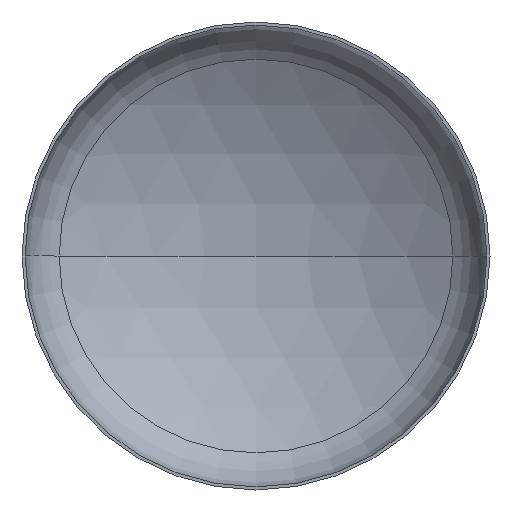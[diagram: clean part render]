
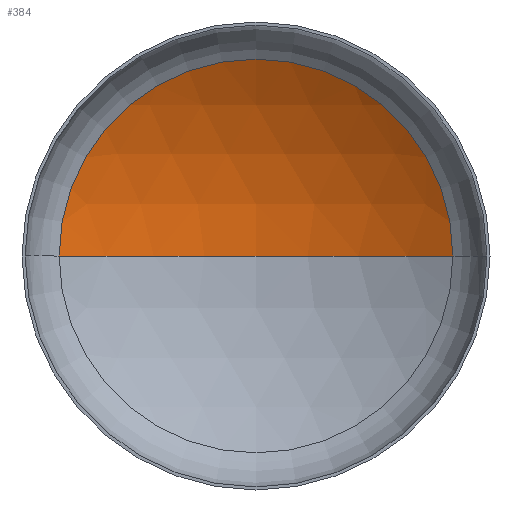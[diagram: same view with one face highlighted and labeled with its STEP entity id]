
A CAD part, front view. The second image highlights one B-rep face of the part: STEP entity #384.
In plain terms, the highlighted spherical face has radius 2400 mm.
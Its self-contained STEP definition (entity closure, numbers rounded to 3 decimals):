
#1 = AXIS2_PLACEMENT_3D ( 'NONE', #80, #365, #226 ) ;
#3 = EDGE_LOOP ( 'NONE', ( #168, #162, #118 ) ) ;
#5 = AXIS2_PLACEMENT_3D ( 'NONE', #63, #98, #104 ) ;
#21 = VERTEX_POINT ( 'NONE', #281 ) ;
#29 = AXIS2_PLACEMENT_3D ( 'NONE', #242, #244, #367 ) ;
#61 = AXIS2_PLACEMENT_3D ( 'NONE', #158, #243, #402 ) ;
#63 = CARTESIAN_POINT ( 'NONE',  ( 0., -1590.212, 0. ) ) ;
#80 = CARTESIAN_POINT ( 'NONE',  ( 0., -1590.212, 0. ) ) ;
#98 = DIRECTION ( 'NONE',  ( 0., 0., -1. ) ) ;
#104 = DIRECTION ( 'NONE',  ( -1., 0., 0. ) ) ;
#118 = ORIENTED_EDGE ( 'NONE', *, *, #126, .T. ) ;
#126 = EDGE_CURVE ( 'NONE', #21, #185, #161, .T. ) ;
#158 = CARTESIAN_POINT ( 'NONE',  ( 0., 451.287, 0. ) ) ;
#161 = CIRCLE ( 'NONE', #61, 1261.856 ) ;
#162 = ORIENTED_EDGE ( 'NONE', *, *, #368, .T. ) ;
#168 = ORIENTED_EDGE ( 'NONE', *, *, #347, .F. ) ;
#173 = CARTESIAN_POINT ( 'NONE',  ( 0., 809.788, 0. ) ) ;
#185 = VERTEX_POINT ( 'NONE', #311 ) ;
#204 = VERTEX_POINT ( 'NONE', #173 ) ;
#226 = DIRECTION ( 'NONE',  ( -1., 0., 0. ) ) ;
#242 = CARTESIAN_POINT ( 'NONE',  ( 0., -1590.212, 0. ) ) ;
#243 = DIRECTION ( 'NONE',  ( 0., -1., 0. ) ) ;
#244 = DIRECTION ( 'NONE',  ( 0., 0., 1. ) ) ;
#264 = SPHERICAL_SURFACE ( 'NONE', #1, 2400. ) ;
#280 = CIRCLE ( 'NONE', #29, 2400. ) ;
#281 = CARTESIAN_POINT ( 'NONE',  ( 1261.856, 451.287, 0. ) ) ;
#311 = CARTESIAN_POINT ( 'NONE',  ( -1261.856, 451.287, 0. ) ) ;
#347 = EDGE_CURVE ( 'NONE', #204, #185, #280, .T. ) ;
#365 = DIRECTION ( 'NONE',  ( 0., 0., -1. ) ) ;
#367 = DIRECTION ( 'NONE',  ( 1., 0., 0. ) ) ;
#368 = EDGE_CURVE ( 'NONE', #204, #21, #386, .T. ) ;
#378 = FACE_OUTER_BOUND ( 'NONE', #3, .T. ) ;
#384 = ADVANCED_FACE ( 'NONE', ( #378 ), #264, .F. ) ;
#386 = CIRCLE ( 'NONE', #5, 2400. ) ;
#402 = DIRECTION ( 'NONE',  ( 1., 0., 0. ) ) ;
